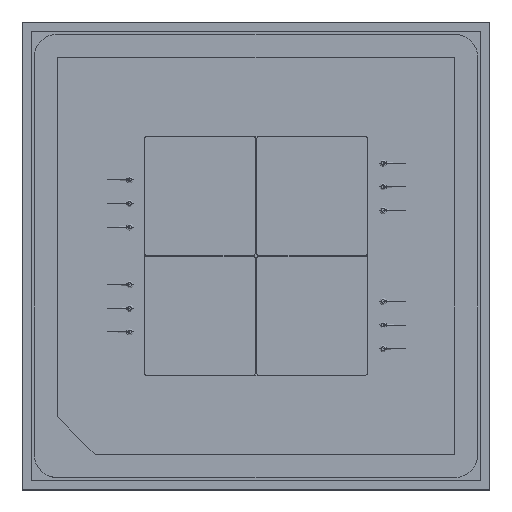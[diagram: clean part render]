
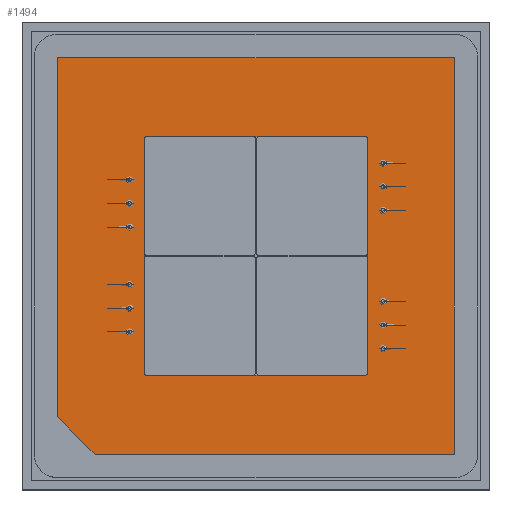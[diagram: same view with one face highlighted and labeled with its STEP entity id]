
A CAD part, top view. The second image highlights one B-rep face of the part: STEP entity #1494.
In plain terms, the highlighted planar face has unit normal (0, 0, 1).
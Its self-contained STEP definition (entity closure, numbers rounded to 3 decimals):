
#763=FACE_BOUND('',#2996,.T.);
#1494=ADVANCED_FACE('',(#2237,#763),#11427,.T.);
#2237=FACE_OUTER_BOUND('',#2995,.T.);
#2995=EDGE_LOOP('',(#6064,#6065,#6066,#6067,#6068));
#2996=EDGE_LOOP('',(#6069,#6070,#6071,#6072,#6073,#6074,#6075,#6076));
#6064=ORIENTED_EDGE('',*,*,#8044,.F.);
#6065=ORIENTED_EDGE('',*,*,#8048,.F.);
#6066=ORIENTED_EDGE('',*,*,#8051,.F.);
#6067=ORIENTED_EDGE('',*,*,#8055,.F.);
#6068=ORIENTED_EDGE('',*,*,#8057,.F.);
#6069=ORIENTED_EDGE('',*,*,#8041,.F.);
#6070=ORIENTED_EDGE('',*,*,#8058,.T.);
#6071=ORIENTED_EDGE('',*,*,#8023,.F.);
#6072=ORIENTED_EDGE('',*,*,#8026,.T.);
#6073=ORIENTED_EDGE('',*,*,#8029,.F.);
#6074=ORIENTED_EDGE('',*,*,#8032,.T.);
#6075=ORIENTED_EDGE('',*,*,#8035,.F.);
#6076=ORIENTED_EDGE('',*,*,#8038,.T.);
#8023=EDGE_CURVE('',#10952,#10953,#9204,.T.);
#8026=EDGE_CURVE('',#10952,#10954,#9915,.T.);
#8029=EDGE_CURVE('',#10957,#10954,#9208,.T.);
#8032=EDGE_CURVE('',#10957,#10958,#9917,.T.);
#8035=EDGE_CURVE('',#10961,#10958,#9212,.T.);
#8038=EDGE_CURVE('',#10961,#10962,#9919,.T.);
#8041=EDGE_CURVE('',#10965,#10962,#9216,.T.);
#8044=EDGE_CURVE('',#10967,#10968,#9219,.T.);
#8048=EDGE_CURVE('',#10971,#10967,#9223,.T.);
#8051=EDGE_CURVE('',#10973,#10971,#9226,.T.);
#8055=EDGE_CURVE('',#10975,#10973,#9230,.T.);
#8057=EDGE_CURVE('',#10968,#10975,#9232,.T.);
#8058=EDGE_CURVE('',#10965,#10953,#9921,.T.);
#9204=B_SPLINE_CURVE_WITH_KNOTS('',1,(#32861,#32862),.UNSPECIFIED.,.F.,
 .F.,(2,2),(0.,2.34),.UNSPECIFIED.);
#9208=B_SPLINE_CURVE_WITH_KNOTS('',1,(#32875,#32876),.UNSPECIFIED.,.F.,
 .F.,(2,2),(0.,2.51),.UNSPECIFIED.);
#9212=B_SPLINE_CURVE_WITH_KNOTS('',1,(#32889,#32890),.UNSPECIFIED.,.F.,
 .F.,(2,2),(0.,2.34),.UNSPECIFIED.);
#9216=B_SPLINE_CURVE_WITH_KNOTS('',1,(#32903,#32904),.UNSPECIFIED.,.F.,
 .F.,(2,2),(0.,2.51),.UNSPECIFIED.);
#9219=B_SPLINE_CURVE_WITH_KNOTS('',1,(#32909,#32910),.UNSPECIFIED.,.F.,
 .F.,(2,2),(0.,3.84),.UNSPECIFIED.);
#9223=B_SPLINE_CURVE_WITH_KNOTS('',1,(#32917,#32918),.UNSPECIFIED.,.F.,
 .F.,(2,2),(0.,0.566),.UNSPECIFIED.);
#9226=B_SPLINE_CURVE_WITH_KNOTS('',1,(#32923,#32924),.UNSPECIFIED.,.F.,
 .F.,(2,2),(0.,3.84),.UNSPECIFIED.);
#9230=B_SPLINE_CURVE_WITH_KNOTS('',1,(#32931,#32932),.UNSPECIFIED.,.F.,
 .F.,(2,2),(0.,4.24),.UNSPECIFIED.);
#9232=B_SPLINE_CURVE_WITH_KNOTS('',1,(#32935,#32936),.UNSPECIFIED.,.F.,
 .F.,(2,2),(0.,4.24),.UNSPECIFIED.);
#9915=(
BOUNDED_CURVE()
B_SPLINE_CURVE(2,(#32867,#32868,#32869),.UNSPECIFIED.,.F.,.F.)
B_SPLINE_CURVE_WITH_KNOTS((3,3),(-0.04,0.),.UNSPECIFIED.)
CURVE()
GEOMETRIC_REPRESENTATION_ITEM()
RATIONAL_B_SPLINE_CURVE((1.,0.707,1.))
REPRESENTATION_ITEM('')
);
#9917=(
BOUNDED_CURVE()
B_SPLINE_CURVE(2,(#32881,#32882,#32883),.UNSPECIFIED.,.F.,.F.)
B_SPLINE_CURVE_WITH_KNOTS((3,3),(-0.04,0.),.UNSPECIFIED.)
CURVE()
GEOMETRIC_REPRESENTATION_ITEM()
RATIONAL_B_SPLINE_CURVE((1.,0.707,1.))
REPRESENTATION_ITEM('')
);
#9919=(
BOUNDED_CURVE()
B_SPLINE_CURVE(2,(#32895,#32896,#32897),.UNSPECIFIED.,.F.,.F.)
B_SPLINE_CURVE_WITH_KNOTS((3,3),(-0.04,0.),.UNSPECIFIED.)
CURVE()
GEOMETRIC_REPRESENTATION_ITEM()
RATIONAL_B_SPLINE_CURVE((1.,0.707,1.))
REPRESENTATION_ITEM('')
);
#9921=(
BOUNDED_CURVE()
B_SPLINE_CURVE(2,(#32937,#32938,#32939),.UNSPECIFIED.,.F.,.F.)
B_SPLINE_CURVE_WITH_KNOTS((3,3),(-0.04,0.),.UNSPECIFIED.)
CURVE()
GEOMETRIC_REPRESENTATION_ITEM()
RATIONAL_B_SPLINE_CURVE((1.,0.707,1.))
REPRESENTATION_ITEM('')
);
#10952=VERTEX_POINT('',#32833);
#10953=VERTEX_POINT('',#32834);
#10954=VERTEX_POINT('',#32835);
#10957=VERTEX_POINT('',#32838);
#10958=VERTEX_POINT('',#32839);
#10961=VERTEX_POINT('',#32842);
#10962=VERTEX_POINT('',#32843);
#10965=VERTEX_POINT('',#32846);
#10967=VERTEX_POINT('',#32848);
#10968=VERTEX_POINT('',#32849);
#10971=VERTEX_POINT('',#32852);
#10973=VERTEX_POINT('',#32854);
#10975=VERTEX_POINT('',#32856);
#11427=PLANE('',#12381);
#12381=AXIS2_PLACEMENT_3D('',#32829,#12865,$);
#12865=DIRECTION('',(0.,0.,1.));
#32829=CARTESIAN_POINT('',(-2.545,-2.544,0.04));
#32833=CARTESIAN_POINT('',(-1.171,-1.275,0.04));
#32834=CARTESIAN_POINT('',(1.169,-1.275,0.04));
#32835=CARTESIAN_POINT('',(-1.191,-1.255,0.04));
#32838=CARTESIAN_POINT('',(-1.191,1.255,0.04));
#32839=CARTESIAN_POINT('',(-1.171,1.275,0.04));
#32842=CARTESIAN_POINT('',(1.169,1.275,0.04));
#32843=CARTESIAN_POINT('',(1.189,1.255,0.04));
#32846=CARTESIAN_POINT('',(1.189,-1.255,0.04));
#32848=CARTESIAN_POINT('',(-2.121,-1.72,0.04));
#32849=CARTESIAN_POINT('',(-2.121,2.12,0.04));
#32852=CARTESIAN_POINT('',(-1.721,-2.12,0.04));
#32854=CARTESIAN_POINT('',(2.119,-2.12,0.04));
#32856=CARTESIAN_POINT('',(2.119,2.12,0.04));
#32861=CARTESIAN_POINT('',(-1.171,-1.275,0.04));
#32862=CARTESIAN_POINT('',(1.169,-1.275,0.04));
#32867=CARTESIAN_POINT('',(-1.171,-1.275,0.04));
#32868=CARTESIAN_POINT('',(-1.191,-1.275,0.04));
#32869=CARTESIAN_POINT('',(-1.191,-1.255,0.04));
#32875=CARTESIAN_POINT('',(-1.191,1.255,0.04));
#32876=CARTESIAN_POINT('',(-1.191,-1.255,0.04));
#32881=CARTESIAN_POINT('',(-1.191,1.255,0.04));
#32882=CARTESIAN_POINT('',(-1.191,1.275,0.04));
#32883=CARTESIAN_POINT('',(-1.171,1.275,0.04));
#32889=CARTESIAN_POINT('',(1.169,1.275,0.04));
#32890=CARTESIAN_POINT('',(-1.171,1.275,0.04));
#32895=CARTESIAN_POINT('',(1.169,1.275,0.04));
#32896=CARTESIAN_POINT('',(1.189,1.275,0.04));
#32897=CARTESIAN_POINT('',(1.189,1.255,0.04));
#32903=CARTESIAN_POINT('',(1.189,-1.255,0.04));
#32904=CARTESIAN_POINT('',(1.189,1.255,0.04));
#32909=CARTESIAN_POINT('',(-2.121,-1.72,0.04));
#32910=CARTESIAN_POINT('',(-2.121,2.12,0.04));
#32917=CARTESIAN_POINT('',(-1.721,-2.12,0.04));
#32918=CARTESIAN_POINT('',(-2.121,-1.72,0.04));
#32923=CARTESIAN_POINT('',(2.119,-2.12,0.04));
#32924=CARTESIAN_POINT('',(-1.721,-2.12,0.04));
#32931=CARTESIAN_POINT('',(2.119,2.12,0.04));
#32932=CARTESIAN_POINT('',(2.119,-2.12,0.04));
#32935=CARTESIAN_POINT('',(-2.121,2.12,0.04));
#32936=CARTESIAN_POINT('',(2.119,2.12,0.04));
#32937=CARTESIAN_POINT('',(1.189,-1.255,0.04));
#32938=CARTESIAN_POINT('',(1.189,-1.275,0.04));
#32939=CARTESIAN_POINT('',(1.169,-1.275,0.04));
